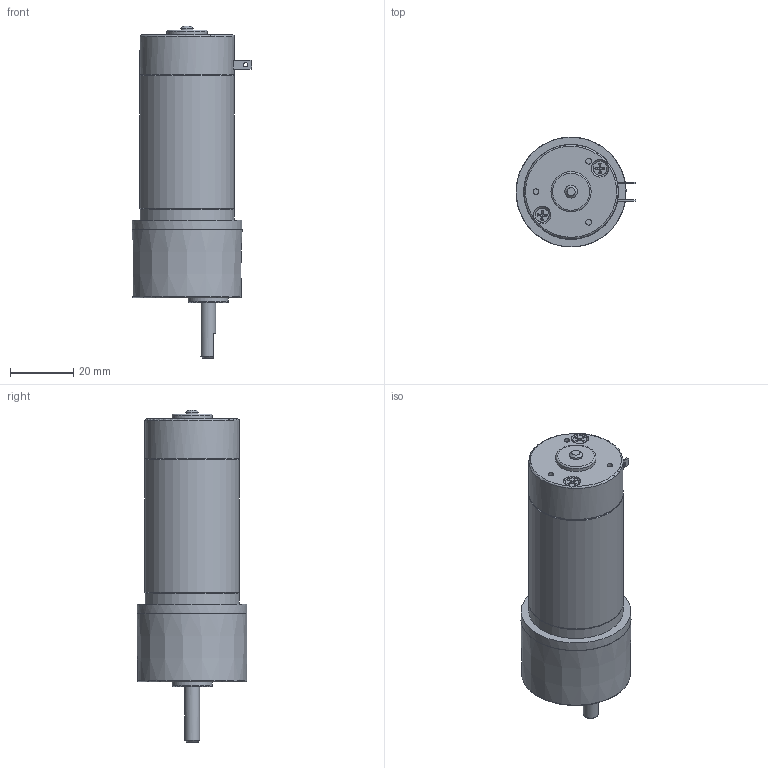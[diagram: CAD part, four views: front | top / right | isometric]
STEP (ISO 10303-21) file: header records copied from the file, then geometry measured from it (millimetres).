
FILE_DESCRIPTION((''),'2;1');
FILE_NAME('Z:\4_DC\새 폴더\RS3 SERIES\RS34ㅁㅁT(O~U).stp','2015-02-12T15:59:56',('kdhkdh'),(''),'Autodesk Inventor 2013','Autodesk Inventor 2013','');
FILE_SCHEMA(('AUTOMOTIVE_DESIGN { 1 0 10303 214 1 1 1 1 }'));
Length unit declared in the file: millimetre
Products named in the file (1): 부품2
Bounding box: 37.88 x 34.74 x 104.89 mm (x, y, z)
Volume: 64793.3 mm3; surface area: 11010.4 mm2
Topology: 1 solids, 6 shells, 205 faces, 522 edges, 343 vertices
Faces by surface type: plane 82, cylinder 56, cone 43, torus 24
Full cylindrical faces by diameter (mm): 1.362 x2, 1.8 x3, 2.156 x3, 2.5 x5, 2.6 x2, 2.7 x3, 4 x1, 4.4 x5, 4.76 x1, 5.5 x5, 12.7 x2, 29.8 x2, 30 x1, 34.7 x1
Entity records: 6256 total; most frequent: CARTESIAN_POINT 1725, DIRECTION 870, ORIENTED_EDGE 862, EDGE_CURVE 431, AXIS2_PLACEMENT_3D 377, VERTEX_POINT 314, EDGE_LOOP 295, FACE_OUTER_BOUND 205
